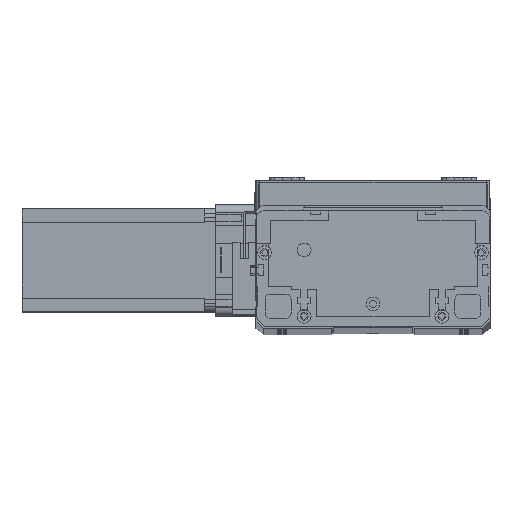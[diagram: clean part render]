
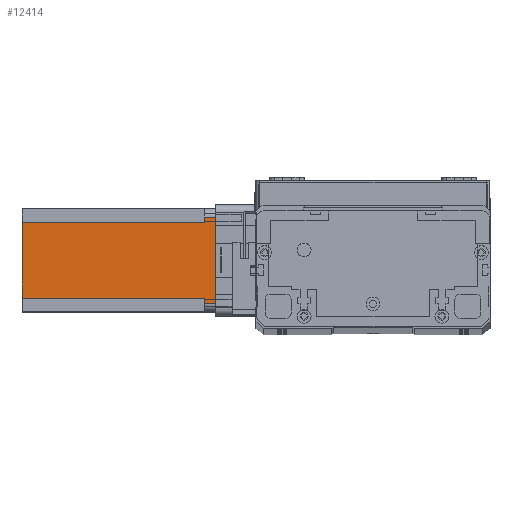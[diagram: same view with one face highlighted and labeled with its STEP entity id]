
A CAD part, top view. The second image highlights one B-rep face of the part: STEP entity #12414.
In plain terms, the highlighted planar face has unit normal (0, 0, 1) as drawn and (0, -1, 0) by its records, which use the part's own axes.
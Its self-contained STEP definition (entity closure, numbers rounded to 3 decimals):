
#81 = EDGE_CURVE ( 'NONE', #18063, #13795, #23041, .T. ) ;
#521 = EDGE_CURVE ( 'NONE', #22068, #18063, #16230, .T. ) ;
#557 = CARTESIAN_POINT ( 'NONE',  ( 55., 0., 0. ) ) ;
#733 = EDGE_CURVE ( 'NONE', #22068, #22956, #11619, .T. ) ;
#1018 = EDGE_CURVE ( 'NONE', #4279, #22956, #9927, .T. ) ;
#1040 = ORIENTED_EDGE ( 'NONE', *, *, #19080, .F. ) ;
#1105 = VERTEX_POINT ( 'NONE', #13081 ) ;
#1186 = CARTESIAN_POINT ( 'NONE',  ( 52., 0., -6.5 ) ) ;
#1411 = VECTOR ( 'NONE', #12010, 1000. ) ;
#2872 = VERTEX_POINT ( 'NONE', #557 ) ;
#3005 = ORIENTED_EDGE ( 'NONE', *, *, #9983, .T. ) ;
#3555 = DIRECTION ( 'NONE',  ( 0., 0., -1. ) ) ;
#4279 = VERTEX_POINT ( 'NONE', #10086 ) ;
#5726 = FACE_OUTER_BOUND ( 'NONE', #10577, .T. ) ;
#5921 = ORIENTED_EDGE ( 'NONE', *, *, #1018, .F. ) ;
#6427 = CARTESIAN_POINT ( 'NONE',  ( 52., 0., -112.5 ) ) ;
#6802 = VERTEX_POINT ( 'NONE', #13350 ) ;
#7119 = LINE ( 'NONE', #1186, #23185 ) ;
#7201 = DIRECTION ( 'NONE',  ( 0., 0., 1. ) ) ;
#7973 = CARTESIAN_POINT ( 'NONE',  ( 8., 0., -6.5 ) ) ;
#8499 = LINE ( 'NONE', #11967, #24464 ) ;
#8650 = LINE ( 'NONE', #16498, #12969 ) ;
#9269 = VECTOR ( 'NONE', #23370, 1000. ) ;
#9554 = ORIENTED_EDGE ( 'NONE', *, *, #733, .T. ) ;
#9820 = DIRECTION ( 'NONE',  ( 0., 0., -1. ) ) ;
#9927 = LINE ( 'NONE', #22947, #9269 ) ;
#9983 = EDGE_CURVE ( 'NONE', #6802, #13795, #8499, .T. ) ;
#10086 = CARTESIAN_POINT ( 'NONE',  ( 52., 0., -6.5 ) ) ;
#10354 = AXIS2_PLACEMENT_3D ( 'NONE', #22367, #16164, #3555 ) ;
#10434 = EDGE_CURVE ( 'NONE', #1105, #2872, #19672, .T. ) ;
#10518 = EDGE_CURVE ( 'NONE', #4279, #1105, #7119, .T. ) ;
#10577 = EDGE_LOOP ( 'NONE', ( #20139, #13578, #1040, #3005, #21727, #18779, #9554, #5921 ) ) ;
#11619 = LINE ( 'NONE', #21538, #22103 ) ;
#11958 = CARTESIAN_POINT ( 'NONE',  ( 8., 0., -112.5 ) ) ;
#11967 = CARTESIAN_POINT ( 'NONE',  ( 5., 0., -112.5 ) ) ;
#12010 = DIRECTION ( 'NONE',  ( -1., 0., 0. ) ) ;
#12414 = ADVANCED_FACE ( 'NONE', ( #5726 ), #14059, .T. ) ;
#12969 = VECTOR ( 'NONE', #22779, 1000. ) ;
#13081 = CARTESIAN_POINT ( 'NONE',  ( 55., 0., -6.5 ) ) ;
#13350 = CARTESIAN_POINT ( 'NONE',  ( 5., 0., 0. ) ) ;
#13498 = DIRECTION ( 'NONE',  ( 0., 0., 1. ) ) ;
#13578 = ORIENTED_EDGE ( 'NONE', *, *, #10434, .T. ) ;
#13777 = CARTESIAN_POINT ( 'NONE',  ( 8., 0., -112.5 ) ) ;
#13795 = VERTEX_POINT ( 'NONE', #21653 ) ;
#14059 = PLANE ( 'NONE',  #10354 ) ;
#14091 = VECTOR ( 'NONE', #7201, 1000. ) ;
#15894 = DIRECTION ( 'NONE',  ( 1., 0., 0. ) ) ;
#16164 = DIRECTION ( 'NONE',  ( 0., -1., 0. ) ) ;
#16230 = LINE ( 'NONE', #13777, #21149 ) ;
#16498 = CARTESIAN_POINT ( 'NONE',  ( 0., 0., 0. ) ) ;
#17749 = CARTESIAN_POINT ( 'NONE',  ( 55., 0., -112.5 ) ) ;
#18063 = VERTEX_POINT ( 'NONE', #18329 ) ;
#18329 = CARTESIAN_POINT ( 'NONE',  ( 8., 0., -6.5 ) ) ;
#18779 = ORIENTED_EDGE ( 'NONE', *, *, #521, .F. ) ;
#19080 = EDGE_CURVE ( 'NONE', #6802, #2872, #8650, .T. ) ;
#19672 = LINE ( 'NONE', #17749, #14091 ) ;
#19818 = DIRECTION ( 'NONE',  ( 1., 0., 0. ) ) ;
#20139 = ORIENTED_EDGE ( 'NONE', *, *, #10518, .T. ) ;
#21149 = VECTOR ( 'NONE', #13498, 1000. ) ;
#21538 = CARTESIAN_POINT ( 'NONE',  ( 0., 0., -112.5 ) ) ;
#21653 = CARTESIAN_POINT ( 'NONE',  ( 5., 0., -6.5 ) ) ;
#21727 = ORIENTED_EDGE ( 'NONE', *, *, #81, .F. ) ;
#22068 = VERTEX_POINT ( 'NONE', #11958 ) ;
#22103 = VECTOR ( 'NONE', #19818, 1000. ) ;
#22367 = CARTESIAN_POINT ( 'NONE',  ( 0., 0., -112.5 ) ) ;
#22779 = DIRECTION ( 'NONE',  ( 1., 0., 0. ) ) ;
#22947 = CARTESIAN_POINT ( 'NONE',  ( 52., 0., -112.5 ) ) ;
#22956 = VERTEX_POINT ( 'NONE', #6427 ) ;
#23041 = LINE ( 'NONE', #7973, #1411 ) ;
#23185 = VECTOR ( 'NONE', #15894, 1000. ) ;
#23370 = DIRECTION ( 'NONE',  ( 0., 0., -1. ) ) ;
#24464 = VECTOR ( 'NONE', #9820, 1000. ) ;
